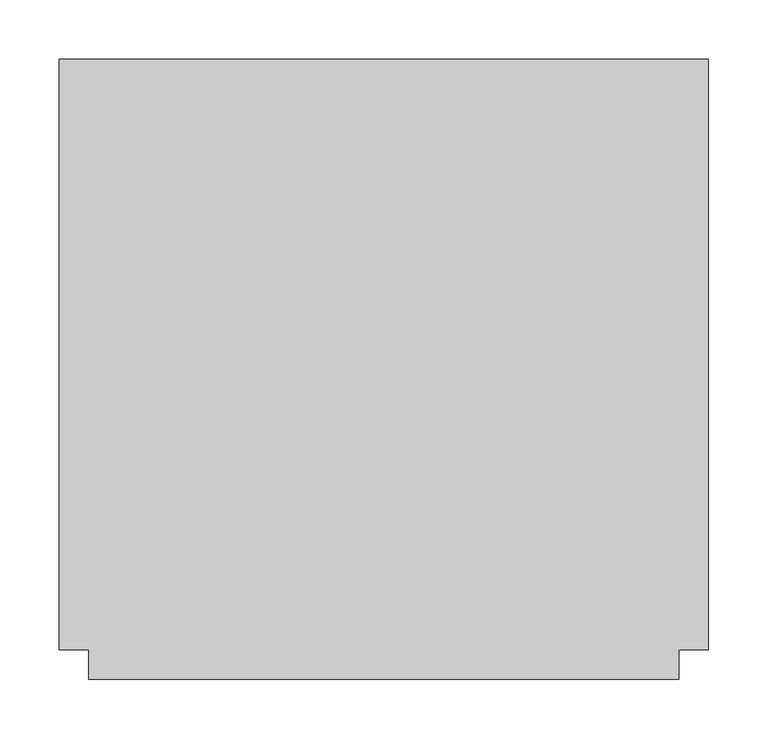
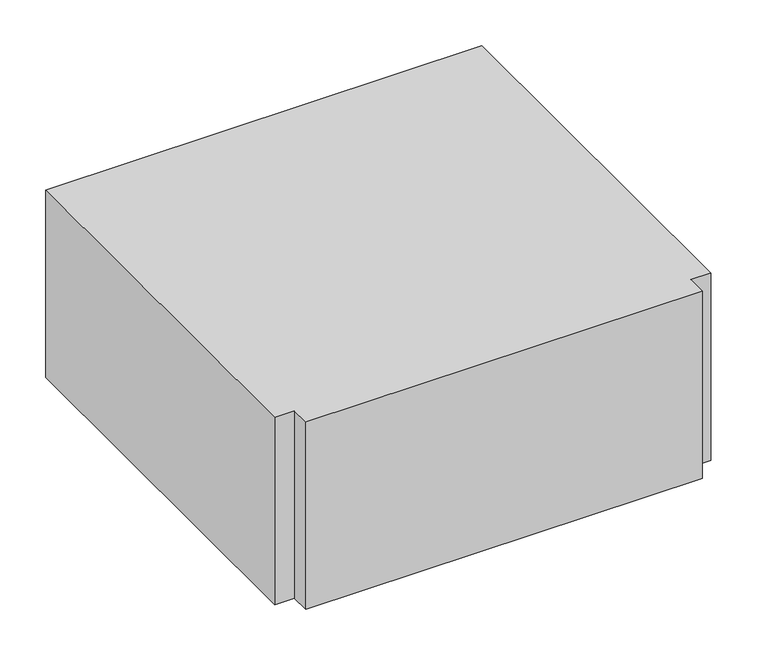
"""IFC4 building model written with IfcOpenShell, lengths in millimetres: duct fitting geometry, ADSK_ТройникВоздуховодов_Прямоугольный1 : Стандарт 2."""

from ifc_helpers import new_model, si_unit, frame, origin, place, context, project, spatial, polyline, outline, extrude, source, transform, mapped, element, save


def duct_fitting_440069ba(model_context):
    return source(origin(), model_context, "Body", "SweptSolid", [
        extrude(outline(polyline([(-275.0, -250.0), (-275.0, 250.0), (275.0, 250.0), (275.0, -250.0), (250.0, -250.0), (250.0, -275.0), (-250.0, -275.0), (-250.0, -250.0), (-275.0, -250.0)])), frame((0.0, 0.0, -125.0), z_axis=(0.0, 0.0, 1.0), x_axis=(1.0, 0.0, 0.0)), (0.0, 0.0, 1.0), 250.0),
    ])


if __name__ == "__main__":
    model = new_model("IFC4")
    model_context = context("Model", 3, world=origin())
    ifc_project = project(units=[si_unit("LENGTHUNIT", "METRE", prefix="MILLI")], contexts=[model_context])
    site = spatial("IfcSite", under=ifc_project)
    building = spatial("IfcBuilding", under=site)
    placement = place(None, origin())
    duct_fitting_shape = duct_fitting_440069ba(model_context)
    element("IfcDuctFitting", 1, ObjectType="ADSK_ТройникВоздуховодов_Прямоугольный1 : Стандарт 2", at=placement, inside=building, context=model_context, shape_type="MappedRepresentation", body=[
        mapped(duct_fitting_shape, transform((0.0, 0.0, 0.0), x_axis=(1.0, 0.0, 0.0), y_axis=(0.0, 1.0, 0.0), z_axis=(0.0, 0.0, 1.0))),
    ])
    save(model, "model.ifc")
